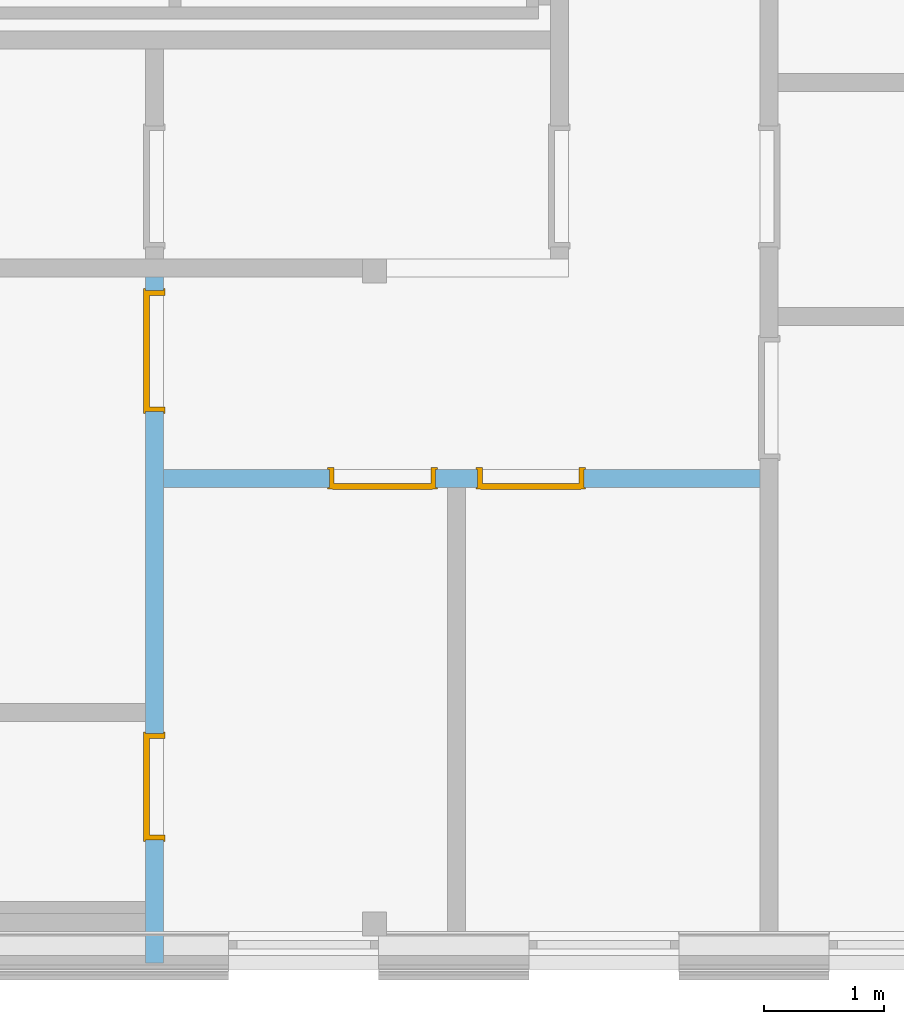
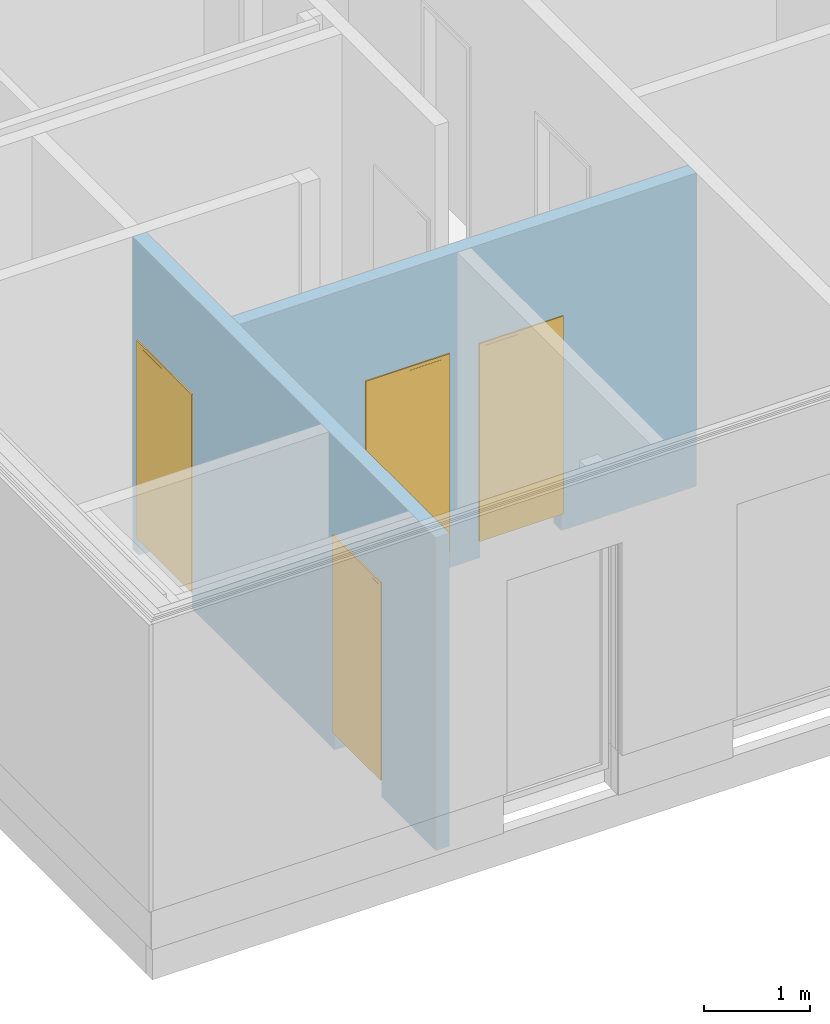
# One storey, part 7 of 23: 4 doors, 4 openings, plus 2 elements that do not belong to this part.
"""IFC4 building model written with IfcOpenShell, lengths in metres."""

from ifc_helpers import new_model, entity, si_unit, converted_unit, derived_unit, frame, frame_2d, origin, origin_with_axes, place, context, subcontext, project, spatial, polyline, rectangle, outline, extrude, faceted_brep, source, transform, mapped, material, type_object, element, fill, save


model = new_model("IFC4")

# Units and contexts
model_context = context("Model", 3, precision=1e-05, world=origin())
body_context = subcontext(model_context, "Body", "Model", "MODEL_VIEW")
ifc_project = project(units=[si_unit("LENGTHUNIT", "METRE"), si_unit("AREAUNIT", "SQUARE_METRE"), si_unit("VOLUMEUNIT", "CUBIC_METRE"), si_unit("MASSUNIT", "GRAM", prefix="KILO"), converted_unit("PLANEANGLEUNIT", "DEGREE", entity("IfcPlaneAngleMeasure", 0.0174532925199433), si_unit("PLANEANGLEUNIT", "RADIAN"), dimensions=[0, 0, 0, 0, 0, 0, 0]), derived_unit("THERMALTRANSMITTANCEUNIT", [(si_unit("POWERUNIT", "WATT"), 1), (si_unit("THERMODYNAMICTEMPERATUREUNIT", "KELVIN"), -1), (si_unit("LENGTHUNIT", "METRE"), -2)]), derived_unit("VOLUMETRICFLOWRATEUNIT", [(si_unit("LENGTHUNIT", "METRE"), 3), (converted_unit("TIMEUNIT", "hour", entity("IfcTimeMeasure", 3600.0), si_unit("TIMEUNIT", "SECOND"), dimensions=[0, 0, 1, 0, 0, 0, 0]), -1), (si_unit("LENGTHUNIT", "METRE"), -1)])], contexts=[model_context])

# Site, building, storey
site_placement = place(None, origin())
site = spatial("IfcSite", under=ifc_project, at=site_placement, Name="Psychiatrie Neubau Wunstorf", CompositionType="ELEMENT")
building_placement = place(site_placement, origin())
building = spatial("IfcBuilding", under=site, at=building_placement, Name="Neubau H1 Sozialzentrum", CompositionType="ELEMENT")
storey_placement = place(building_placement, frame((0.0, 0.0, 0.7)))
storey = spatial("IfcBuildingStorey", under=building, at=storey_placement, Name="H1 Ebene 0", CompositionType="ELEMENT", Elevation=0.7)

# Wall, openings, doors
ifc_material_1 = material(Name="WI-IW")
wall_1_placement = place(storey_placement, frame((-12.9120330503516, 4.00232136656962, -0.2), z_axis=(0.0, 0.0, 1.0), x_axis=(1.81740623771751e-09, 1.0, 0.0)))
wall_1 = element("IfcWall", 1, at=wall_1_placement, inside=storey, material=ifc_material_1, context=body_context, shape_type="SweptSolid", body=[
    extrude(rectangle(XDim=5.71006578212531, YDim=0.15, at=frame_2d((2.85503289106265, 0.075), x_axis=(1.0, 0.0))), origin_with_axes(), (0.0, 0.0, 1.0), 3.6),
])
opening_1_placement = place(wall_1_placement, frame((1.90999998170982, 0.149999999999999, 0.0), z_axis=(0.0, -1.0, 0.0), x_axis=(0.0, 0.0, 1.0)))
opening_1 = element("IfcOpeningElement", 2, at=opening_1_placement, cuts=wall_1, Name="Türöffnung", ObjectType="Opening", context=body_context, shape_type="SweptSolid", body=[
    extrude(outline(polyline([(2.46, 0.885000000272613), (2.46, 0.0), (0.0, 0.0), (0.0, 0.885000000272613), (2.46, 0.885000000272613)])), origin_with_axes(), (0.0, 0.0, 1.0), 0.15),
])
opening_2_placement = place(wall_1_placement, frame((5.60003535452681, 0.150000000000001, 0.0), z_axis=(6.06329801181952e-15, -1.0, 0.0), x_axis=(0.0, 0.0, 1.0)))
opening_2 = element("IfcOpeningElement", 3, at=opening_2_placement, cuts=wall_1, Name="Türöffnung", ObjectType="Opening", context=body_context, shape_type="SweptSolid", body=[
    extrude(outline(polyline([(2.46, 1.01000000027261), (2.46, 0.0), (0.0, 0.0), (0.0, 1.01000000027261), (2.46, 1.01000000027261)])), origin_with_axes(), (0.0, 0.0, 1.0), 0.15),
])
ifc_material_2 = material(Name="TI-1F-UZ-ZK")
door_type_1 = type_object("IfcDoorType", Name="SMT", OperationType="SINGLE_SWING_RIGHT", ParameterTakesPrecedence=False, PredefinedType="DOOR")
shared_shape_1 = source(origin_with_axes(), body_context, "Body", "Brep", [
    faceted_brep([(0.885000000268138, -0.015, 2.46), (0.885000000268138, -0.015, 0.2), (0.845000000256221, -0.015, 0.2), (0.845000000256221, -0.015, 2.46), (0.885000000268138, 0.165, 0.2), (0.885000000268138, 0.165, 2.46), (0.84500000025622, 0.165, 2.46), (0.84500000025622, 0.165, 0.2)], [[[0, 1, 2, 3]], [[4, 5, 6, 7]], [[1, 0, 5, 4]], [[2, 1, 4, 7]], [[3, 2, 7, 6]], [[0, 3, 6, 5]]], orient=[[False], [False], [False], [False], [False], [False]]),
    faceted_brep([(0.885000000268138, -0.015, 2.475), (0.900000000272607, -0.015, 2.475), (0.900000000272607, -0.015, 0.2), (0.885000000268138, -0.015, 0.2), (0.885000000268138, 0.0, 0.2), (0.900000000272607, 0.0, 0.2), (0.900000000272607, 0.0, 2.475), (0.885000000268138, 0.0, 2.475)], [[[0, 1, 2, 3]], [[4, 5, 6, 7]], [[3, 4, 7, 0]], [[2, 5, 4, 3]], [[1, 6, 5, 2]], [[0, 7, 6, 1]]], orient=[[False], [False], [False], [False], [False], [False]]),
    faceted_brep([(0.885000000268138, 0.15, 2.475), (0.900000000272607, 0.15, 2.475), (0.900000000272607, 0.15, 0.2), (0.885000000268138, 0.15, 0.2), (0.885000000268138, 0.165, 0.2), (0.900000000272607, 0.165, 0.2), (0.900000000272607, 0.165, 2.475), (0.885000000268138, 0.165, 2.475)], [[[0, 1, 2, 3]], [[4, 5, 6, 7]], [[3, 4, 7, 0]], [[2, 5, 4, 3]], [[1, 6, 5, 2]], [[0, 7, 6, 1]]], orient=[[False], [False], [False], [False], [False], [False]]),
    faceted_brep([(0.0400000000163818, -0.015, 2.46), (0.0400000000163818, -0.015, 0.2), (0.0, -0.015, 0.2), (0.0, -0.015, 2.46), (0.0400000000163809, 0.165, 0.2), (0.0400000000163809, 0.165, 2.46), (0.0, 0.165, 2.46), (0.0, 0.165, 0.2)], [[[0, 1, 2, 3]], [[4, 5, 6, 7]], [[1, 0, 5, 4]], [[2, 1, 4, 7]], [[3, 2, 7, 6]], [[0, 3, 6, 5]]], orient=[[False], [False], [False], [False], [False], [False]]),
    faceted_brep([(0.0, -0.015, 2.475), (0.0, -0.015, 0.2), (-0.0150000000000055, -0.015, 0.2), (-0.0150000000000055, -0.015, 2.475), (0.0, 0.0, 0.2), (0.0, 0.0, 2.475), (-0.0150000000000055, 0.0, 2.475), (-0.0150000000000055, 0.0, 0.2)], [[[0, 1, 2, 3]], [[4, 5, 6, 7]], [[1, 0, 5, 4]], [[2, 1, 4, 7]], [[3, 2, 7, 6]], [[0, 3, 6, 5]]], orient=[[False], [False], [False], [False], [False], [False]]),
    faceted_brep([(0.0, 0.15, 2.475), (0.0, 0.15, 0.2), (-0.0150000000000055, 0.15, 0.2), (-0.0150000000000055, 0.15, 2.475), (0.0, 0.165, 0.2), (0.0, 0.165, 2.475), (-0.0150000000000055, 0.165, 2.475), (-0.0150000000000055, 0.165, 0.2)], [[[0, 1, 2, 3]], [[4, 5, 6, 7]], [[1, 0, 5, 4]], [[2, 1, 4, 7]], [[3, 2, 7, 6]], [[0, 3, 6, 5]]], orient=[[False], [False], [False], [False], [False], [False]]),
    faceted_brep([(0.845000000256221, -0.015, 2.46), (0.845000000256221, -0.015, 2.42), (0.0400000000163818, -0.015, 2.42), (0.0400000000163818, -0.015, 2.46), (0.84500000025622, 0.165, 2.42), (0.84500000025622, 0.165, 2.46), (0.0400000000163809, 0.165, 2.46), (0.0400000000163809, 0.165, 2.42)], [[[0, 1, 2, 3]], [[4, 5, 6, 7]], [[1, 0, 5, 4]], [[2, 1, 4, 7]], [[3, 2, 7, 6]], [[0, 3, 6, 5]]], orient=[[False], [False], [False], [False], [False], [False]]),
    faceted_brep([(0.885000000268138, -0.015, 2.475), (0.885000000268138, -0.015, 2.46), (0.0, -0.015, 2.46), (0.0, -0.015, 2.475), (0.885000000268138, 0.0, 2.46), (0.885000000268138, 0.0, 2.475), (0.0, 0.0, 2.475), (0.0, 0.0, 2.46)], [[[0, 1, 2, 3]], [[4, 5, 6, 7]], [[1, 0, 5, 4]], [[2, 1, 4, 7]], [[3, 2, 7, 6]], [[0, 3, 6, 5]]], orient=[[False], [False], [False], [False], [False], [False]]),
    faceted_brep([(0.885000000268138, 0.15, 2.475), (0.885000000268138, 0.15, 2.46), (0.0, 0.15, 2.46), (0.0, 0.15, 2.475), (0.885000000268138, 0.165, 2.46), (0.885000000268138, 0.165, 2.475), (0.0, 0.165, 2.475), (0.0, 0.165, 2.46)], [[[0, 1, 2, 3]], [[4, 5, 6, 7]], [[1, 0, 5, 4]], [[2, 1, 4, 7]], [[3, 2, 7, 6]], [[0, 3, 6, 5]]], orient=[[False], [False], [False], [False], [False], [False]]),
    faceted_brep([(0.86000000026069, 0.116, 2.435), (0.86000000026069, 0.116, 0.2), (0.0250000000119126, 0.116000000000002, 0.2), (0.0250000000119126, 0.116, 2.435), (0.86000000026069, 0.166, 0.2), (0.86000000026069, 0.166, 2.435), (0.0250000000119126, 0.166, 2.435), (0.0250000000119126, 0.166000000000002, 0.2)], [[[0, 1, 2, 3]], [[4, 5, 6, 7]], [[1, 0, 5, 4]], [[2, 1, 4, 7]], [[3, 2, 7, 6]], [[0, 3, 6, 5]]], orient=[[False], [False], [False], [False], [False], [False]]),
])
door_1_placement = place(opening_1_placement, frame((0.0, 0.885000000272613, 0.15), z_axis=(1.0, 0.0, 0.0), x_axis=(0.0, -1.0, 5.41719669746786e-16)))
door_1 = element("IfcDoor", 4, at=door_1_placement, inside=storey, type_object=door_type_1, material=ifc_material_2, Name="SMT", OverallHeight=2.46, OverallWidth=0.885, context=body_context, shape_type="MappedRepresentation", body=[
    mapped(shared_shape_1, transform((0.0, 0.0, 0.0), x_axis=(1.0, 0.0, 0.0), y_axis=(0.0, 1.0, 0.0), z_axis=(0.0, 0.0, 1.0), scale=1.0)),
])
fill(opening_1, door_1)
ifc_material_3 = material(Name="TI-1F-UZ-ZK")
door_type_2 = type_object("IfcDoorType", Name="SMT", OperationType="SINGLE_SWING_RIGHT", ParameterTakesPrecedence=False, PredefinedType="DOOR")
shared_shape_2 = source(origin_with_axes(), body_context, "Body", "Brep", [
    faceted_brep([(1.01000000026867, -0.015, 2.46), (1.01000000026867, -0.015, 0.2), (0.970000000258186, -0.015, 0.2), (0.970000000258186, -0.015, 2.46), (1.01000000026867, 0.165, 0.2), (1.01000000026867, 0.165, 2.46), (0.970000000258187, 0.165, 2.46), (0.970000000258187, 0.165, 0.2)], [[[0, 1, 2, 3]], [[4, 5, 6, 7]], [[1, 0, 5, 4]], [[2, 1, 4, 7]], [[3, 2, 7, 6]], [[0, 3, 6, 5]]], orient=[[False], [False], [False], [False], [False], [False]]),
    faceted_brep([(1.01000000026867, -0.015, 2.475), (1.0250000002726, -0.015, 2.475), (1.0250000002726, -0.015, 0.2), (1.01000000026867, -0.015, 0.2), (1.01000000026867, 0.0, 0.2), (1.0250000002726, 0.0, 0.2), (1.0250000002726, 0.0, 2.475), (1.01000000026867, 0.0, 2.475)], [[[0, 1, 2, 3]], [[4, 5, 6, 7]], [[3, 4, 7, 0]], [[2, 5, 4, 3]], [[1, 6, 5, 2]], [[0, 7, 6, 1]]], orient=[[False], [False], [False], [False], [False], [False]]),
    faceted_brep([(1.01000000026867, 0.15, 2.475), (1.0250000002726, 0.15, 2.475), (1.0250000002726, 0.15, 0.2), (1.01000000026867, 0.15, 0.2), (1.01000000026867, 0.165, 0.2), (1.0250000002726, 0.165, 0.2), (1.0250000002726, 0.165, 2.475), (1.01000000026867, 0.165, 2.475)], [[[0, 1, 2, 3]], [[4, 5, 6, 7]], [[3, 4, 7, 0]], [[2, 5, 4, 3]], [[1, 6, 5, 2]], [[0, 7, 6, 1]]], orient=[[False], [False], [False], [False], [False], [False]]),
    faceted_brep([(0.0400000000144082, -0.015, 2.46), (0.0400000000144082, -0.015, 0.2), (0.0, -0.015, 0.2), (0.0, -0.015, 2.46), (0.0400000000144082, 0.165, 0.2), (0.0400000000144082, 0.165, 2.46), (0.0, 0.165, 2.46), (0.0, 0.165, 0.2)], [[[0, 1, 2, 3]], [[4, 5, 6, 7]], [[1, 0, 5, 4]], [[2, 1, 4, 7]], [[3, 2, 7, 6]], [[0, 3, 6, 5]]], orient=[[False], [False], [False], [False], [False], [False]]),
    faceted_brep([(0.0, -0.015, 2.475), (0.0, -0.015, 0.2), (-0.0150000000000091, -0.015, 0.2), (-0.0150000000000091, -0.015, 2.475), (0.0, 0.0, 0.2), (0.0, 0.0, 2.475), (-0.0150000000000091, 0.0, 2.475), (-0.0150000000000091, 0.0, 0.2)], [[[0, 1, 2, 3]], [[4, 5, 6, 7]], [[1, 0, 5, 4]], [[2, 1, 4, 7]], [[3, 2, 7, 6]], [[0, 3, 6, 5]]], orient=[[False], [False], [False], [False], [False], [False]]),
    faceted_brep([(0.0, 0.15, 2.475), (0.0, 0.15, 0.2), (-0.0150000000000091, 0.15, 0.2), (-0.0150000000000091, 0.15, 2.475), (0.0, 0.165, 0.2), (0.0, 0.165, 2.475), (-0.0150000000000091, 0.165, 2.475), (-0.0150000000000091, 0.165, 0.2)], [[[0, 1, 2, 3]], [[4, 5, 6, 7]], [[1, 0, 5, 4]], [[2, 1, 4, 7]], [[3, 2, 7, 6]], [[0, 3, 6, 5]]], orient=[[False], [False], [False], [False], [False], [False]]),
    faceted_brep([(0.970000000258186, -0.015, 2.46), (0.970000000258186, -0.015, 2.42), (0.0400000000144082, -0.015, 2.42), (0.0400000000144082, -0.015, 2.46), (0.970000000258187, 0.165, 2.42), (0.970000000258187, 0.165, 2.46), (0.0400000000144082, 0.165, 2.46), (0.0400000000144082, 0.165, 2.42)], [[[0, 1, 2, 3]], [[4, 5, 6, 7]], [[1, 0, 5, 4]], [[2, 1, 4, 7]], [[3, 2, 7, 6]], [[0, 3, 6, 5]]], orient=[[False], [False], [False], [False], [False], [False]]),
    faceted_brep([(1.01000000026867, -0.015, 2.475), (1.01000000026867, -0.015, 2.46), (0.0, -0.015, 2.46), (0.0, -0.015, 2.475), (1.01000000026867, 0.0, 2.46), (1.01000000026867, 0.0, 2.475), (0.0, 0.0, 2.475), (0.0, 0.0, 2.46)], [[[0, 1, 2, 3]], [[4, 5, 6, 7]], [[1, 0, 5, 4]], [[2, 1, 4, 7]], [[3, 2, 7, 6]], [[0, 3, 6, 5]]], orient=[[False], [False], [False], [False], [False], [False]]),
    faceted_brep([(1.01000000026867, 0.15, 2.475), (1.01000000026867, 0.15, 2.46), (0.0, 0.15, 2.46), (0.0, 0.15, 2.475), (1.01000000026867, 0.165, 2.46), (1.01000000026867, 0.165, 2.475), (0.0, 0.165, 2.475), (0.0, 0.165, 2.46)], [[[0, 1, 2, 3]], [[4, 5, 6, 7]], [[1, 0, 5, 4]], [[2, 1, 4, 7]], [[3, 2, 7, 6]], [[0, 3, 6, 5]]], orient=[[False], [False], [False], [False], [False], [False]]),
    faceted_brep([(0.985000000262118, 0.116, 2.435), (0.985000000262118, 0.116, 0.2), (0.0250000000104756, 0.116, 0.2), (0.0250000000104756, 0.116, 2.435), (0.985000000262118, 0.166, 0.2), (0.985000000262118, 0.166, 2.435), (0.0250000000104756, 0.166, 2.435), (0.0250000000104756, 0.166, 0.2)], [[[0, 1, 2, 3]], [[4, 5, 6, 7]], [[1, 0, 5, 4]], [[2, 1, 4, 7]], [[3, 2, 7, 6]], [[0, 3, 6, 5]]], orient=[[False], [False], [False], [False], [False], [False]]),
])
door_2_placement = place(opening_2_placement, frame((0.0, 1.01000000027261, 0.149999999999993), z_axis=(1.0, 0.0, 0.0), x_axis=(0.0, -1.0, 6.16756085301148e-15)))
door_2 = element("IfcDoor", 5, at=door_2_placement, inside=storey, type_object=door_type_2, material=ifc_material_3, Name="SMT", OverallHeight=2.46, OverallWidth=1.01, context=body_context, shape_type="MappedRepresentation", body=[
    mapped(shared_shape_2, transform((0.0, 0.0, 0.0), x_axis=(1.0, 0.0, 0.0), y_axis=(0.0, 1.0, 0.0), z_axis=(0.0, 0.0, 1.0), scale=1.0)),
])
fill(opening_2, door_2)

ifc_material_4 = material(Name="WI-IW")
wall_2_placement = place(storey_placement, frame((-12.9120330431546, 7.96232451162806, -0.2), z_axis=(0.0, 0.0, 1.0), x_axis=(0.999999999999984, 1.78464375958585e-07, 0.0)))
wall_2 = element("IfcWall", 6, at=wall_2_placement, inside=storey, material=ifc_material_4, context=body_context, shape_type="SweptSolid", body=[
    extrude(rectangle(XDim=4.97050665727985, YDim=0.150000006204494, at=frame_2d((2.48525332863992, 0.0750000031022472), x_axis=(1.0, 0.0))), origin_with_axes(), (0.0, 0.0, 1.0), 3.6),
])
opening_3_placement = place(wall_2_placement, frame((2.6175322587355, 0.0, 0.0), z_axis=(2.72411841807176e-10, 1.0, 0.0), x_axis=(0.0, 0.0, 1.0)))
opening_3 = element("IfcOpeningElement", 7, at=opening_3_placement, cuts=wall_2, Name="Türöffnung", ObjectType="Opening", context=body_context, shape_type="SweptSolid", body=[
    extrude(outline(polyline([(2.46, 0.884999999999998), (2.46, 0.0), (0.0, 0.0), (0.0, 0.884999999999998), (2.46, 0.884999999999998)])), origin_with_axes(), (0.0, 0.0, 1.0), 0.150000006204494),
])
opening_4_placement = place(wall_2_placement, frame((1.38253225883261, 0.0, 0.0), z_axis=(2.72408810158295e-10, 1.0, 0.0), x_axis=(0.0, 0.0, 1.0)))
opening_4 = element("IfcOpeningElement", 8, at=opening_4_placement, cuts=wall_2, Name="Türöffnung", ObjectType="Opening", context=body_context, shape_type="SweptSolid", body=[
    extrude(outline(polyline([(2.46, 0.885), (2.46, 0.0), (0.0, 0.0), (0.0, 0.885), (2.46, 0.885)])), origin_with_axes(), (0.0, 0.0, 1.0), 0.150000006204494),
])
ifc_material_5 = material(Name="TI-1F-UZ-ZK")
door_type_3 = type_object("IfcDoorType", Name="SMT", OperationType="SINGLE_SWING_RIGHT", ParameterTakesPrecedence=False, PredefinedType="DOOR")
shared_shape_3 = source(origin_with_axes(), body_context, "Body", "Brep", [
    faceted_brep([(0.884999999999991, -0.0149999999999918, 2.46), (0.884999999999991, -0.0149999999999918, 0.2), (0.844999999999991, -0.0149999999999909, 0.2), (0.844999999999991, -0.0149999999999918, 2.46), (0.884999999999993, 0.165000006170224, 0.2), (0.884999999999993, 0.165000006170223, 2.46), (0.844999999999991, 0.165000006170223, 2.46), (0.844999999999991, 0.165000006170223, 0.2)], [[[0, 1, 2, 3]], [[4, 5, 6, 7]], [[1, 0, 5, 4]], [[2, 1, 4, 7]], [[3, 2, 7, 6]], [[0, 3, 6, 5]]], orient=[[False], [False], [False], [False], [False], [False]]),
    faceted_brep([(0.884999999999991, -0.0149999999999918, 2.475), (0.899999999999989, -0.0149999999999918, 2.475), (0.899999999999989, -0.0149999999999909, 0.2), (0.884999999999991, -0.0149999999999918, 0.2), (0.884999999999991, 0.0, 0.2), (0.899999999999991, 0.0, 0.2), (0.899999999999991, 0.0, 2.475), (0.884999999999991, 0.0, 2.475)], [[[0, 1, 2, 3]], [[4, 5, 6, 7]], [[3, 4, 7, 0]], [[2, 5, 4, 3]], [[1, 6, 5, 2]], [[0, 7, 6, 1]]], orient=[[False], [False], [False], [False], [False], [False]]),
    faceted_brep([(0.884999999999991, 0.150000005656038, 2.475), (0.899999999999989, 0.150000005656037, 2.475), (0.899999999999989, 0.150000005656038, 0.2), (0.884999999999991, 0.150000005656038, 0.2), (0.884999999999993, 0.165000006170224, 0.2), (0.899999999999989, 0.165000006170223, 0.2), (0.899999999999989, 0.165000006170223, 2.475), (0.884999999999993, 0.165000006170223, 2.475)], [[[0, 1, 2, 3]], [[4, 5, 6, 7]], [[3, 4, 7, 0]], [[2, 5, 4, 3]], [[1, 6, 5, 2]], [[0, 7, 6, 1]]], orient=[[False], [False], [False], [False], [False], [False]]),
    faceted_brep([(0.0399999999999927, -0.0149999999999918, 2.46), (0.0399999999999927, -0.0149999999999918, 0.2), (0.0, -0.0149999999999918, 0.2), (0.0, -0.0149999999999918, 2.46), (0.0399999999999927, 0.165000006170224, 0.2), (0.0399999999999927, 0.165000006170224, 2.46), (0.0, 0.165000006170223, 2.46), (0.0, 0.165000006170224, 0.2)], [[[0, 1, 2, 3]], [[4, 5, 6, 7]], [[1, 0, 5, 4]], [[2, 1, 4, 7]], [[3, 2, 7, 6]], [[0, 3, 6, 5]]], orient=[[False], [False], [False], [False], [False], [False]]),
    faceted_brep([(0.0, -0.0149999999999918, 2.475), (0.0, -0.0149999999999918, 0.2), (-0.0150000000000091, -0.0149999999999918, 0.2), (-0.0150000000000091, -0.0149999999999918, 2.475), (0.0, 0.0, 0.2), (0.0, 0.0, 2.475), (-0.0150000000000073, 0.0, 2.475), (-0.0150000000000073, 0.0, 0.2)], [[[0, 1, 2, 3]], [[4, 5, 6, 7]], [[1, 0, 5, 4]], [[2, 1, 4, 7]], [[3, 2, 7, 6]], [[0, 3, 6, 5]]], orient=[[False], [False], [False], [False], [False], [False]]),
    faceted_brep([(0.0, 0.150000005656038, 2.475), (0.0, 0.150000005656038, 0.2), (-0.0150000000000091, 0.150000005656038, 0.2), (-0.0150000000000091, 0.150000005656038, 2.475), (0.0, 0.165000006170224, 0.2), (0.0, 0.165000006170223, 2.475), (-0.0150000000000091, 0.165000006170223, 2.475), (-0.0150000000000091, 0.165000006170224, 0.2)], [[[0, 1, 2, 3]], [[4, 5, 6, 7]], [[1, 0, 5, 4]], [[2, 1, 4, 7]], [[3, 2, 7, 6]], [[0, 3, 6, 5]]], orient=[[False], [False], [False], [False], [False], [False]]),
    faceted_brep([(0.844999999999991, -0.0149999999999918, 2.46), (0.844999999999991, -0.0149999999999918, 2.42), (0.0399999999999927, -0.0149999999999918, 2.42), (0.0399999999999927, -0.0149999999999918, 2.46), (0.844999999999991, 0.165000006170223, 2.42), (0.844999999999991, 0.165000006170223, 2.46), (0.0399999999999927, 0.165000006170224, 2.46), (0.0399999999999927, 0.165000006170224, 2.42)], [[[0, 1, 2, 3]], [[4, 5, 6, 7]], [[1, 0, 5, 4]], [[2, 1, 4, 7]], [[3, 2, 7, 6]], [[0, 3, 6, 5]]], orient=[[False], [False], [False], [False], [False], [False]]),
    faceted_brep([(0.884999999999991, -0.0149999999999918, 2.475), (0.884999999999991, -0.0149999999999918, 2.46), (0.0, -0.0149999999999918, 2.46), (0.0, -0.0149999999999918, 2.475), (0.884999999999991, 0.0, 2.46), (0.884999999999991, 0.0, 2.475), (0.0, 0.0, 2.475), (0.0, 0.0, 2.46)], [[[0, 1, 2, 3]], [[4, 5, 6, 7]], [[1, 0, 5, 4]], [[2, 1, 4, 7]], [[3, 2, 7, 6]], [[0, 3, 6, 5]]], orient=[[False], [False], [False], [False], [False], [False]]),
    faceted_brep([(0.884999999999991, 0.150000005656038, 2.475), (0.884999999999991, 0.150000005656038, 2.46), (0.0, 0.150000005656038, 2.46), (0.0, 0.150000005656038, 2.475), (0.884999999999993, 0.165000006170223, 2.46), (0.884999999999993, 0.165000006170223, 2.475), (0.0, 0.165000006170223, 2.475), (0.0, 0.165000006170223, 2.46)], [[[0, 1, 2, 3]], [[4, 5, 6, 7]], [[1, 0, 5, 4]], [[2, 1, 4, 7]], [[3, 2, 7, 6]], [[0, 3, 6, 5]]], orient=[[False], [False], [False], [False], [False], [False]]),
    faceted_brep([(0.859999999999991, 0.116000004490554, 2.435), (0.859999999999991, 0.116000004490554, 0.2), (0.0249999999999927, 0.116000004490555, 0.2), (0.0249999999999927, 0.116000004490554, 2.435), (0.859999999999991, 0.166000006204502, 0.2), (0.859999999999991, 0.166000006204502, 2.435), (0.0249999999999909, 0.166000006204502, 2.435), (0.0249999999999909, 0.166000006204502, 0.2)], [[[0, 1, 2, 3]], [[4, 5, 6, 7]], [[1, 0, 5, 4]], [[2, 1, 4, 7]], [[3, 2, 7, 6]], [[0, 3, 6, 5]]], orient=[[False], [False], [False], [False], [False], [False]]),
])
door_3_placement = place(opening_3_placement, frame((0.0, 0.884999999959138, 0.150000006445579), z_axis=(1.0, 0.0, 0.0), x_axis=(0.0, -1.0, -2.72411829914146e-10)))
door_3 = element("IfcDoor", 9, at=door_3_placement, inside=storey, type_object=door_type_3, material=ifc_material_5, Name="SMT", OverallHeight=2.46, OverallWidth=0.885, context=body_context, shape_type="MappedRepresentation", body=[
    mapped(shared_shape_3, transform((0.0, 0.0, 0.0), x_axis=(1.0, 0.0, 0.0), y_axis=(0.0, 1.0, 0.0), z_axis=(0.0, 0.0, 1.0), scale=1.0)),
])
fill(opening_3, door_3)
ifc_material_6 = material(Name="TI-1F-UZ-ZK")
door_type_4 = type_object("IfcDoorType", Name="SMT", OperationType="SINGLE_SWING_RIGHT", ParameterTakesPrecedence=False, PredefinedType="DOOR")
shared_shape_4 = source(origin_with_axes(), body_context, "Body", "Brep", [
    faceted_brep([(0.0, -0.0150000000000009, 2.46), (0.0399999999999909, -0.0150000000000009, 2.46), (0.0399999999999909, -0.0150000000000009, 0.2), (0.0, -0.015, 0.2), (0.0, 0.165000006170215, 0.2), (0.0399999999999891, 0.165000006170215, 0.2), (0.0399999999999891, 0.165000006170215, 2.46), (0.0, 0.165000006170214, 2.46)], [[[0, 1, 2, 3]], [[4, 5, 6, 7]], [[3, 4, 7, 0]], [[2, 5, 4, 3]], [[1, 6, 5, 2]], [[0, 7, 6, 1]]], orient=[[False], [False], [False], [False], [False], [False]]),
    faceted_brep([(0.0, -0.0150000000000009, 2.475), (0.0, -0.015, 0.2), (-0.0150000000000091, -0.015, 0.2), (-0.0150000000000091, -0.015, 2.475), (0.0, 0.0, 0.2), (0.0, 0.0, 2.475), (-0.0150000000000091, 0.0, 2.475), (-0.0150000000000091, 0.0, 0.2)], [[[0, 1, 2, 3]], [[4, 5, 6, 7]], [[1, 0, 5, 4]], [[2, 1, 4, 7]], [[3, 2, 7, 6]], [[0, 3, 6, 5]]], orient=[[False], [False], [False], [False], [False], [False]]),
    faceted_brep([(0.0, 0.15000000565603, 2.475), (0.0, 0.15000000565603, 0.2), (-0.0150000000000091, 0.150000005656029, 0.2), (-0.0150000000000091, 0.150000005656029, 2.475), (0.0, 0.165000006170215, 0.2), (0.0, 0.165000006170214, 2.475), (-0.0150000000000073, 0.165000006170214, 2.475), (-0.0150000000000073, 0.165000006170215, 0.2)], [[[0, 1, 2, 3]], [[4, 5, 6, 7]], [[1, 0, 5, 4]], [[2, 1, 4, 7]], [[3, 2, 7, 6]], [[0, 3, 6, 5]]], orient=[[False], [False], [False], [False], [False], [False]]),
    faceted_brep([(0.844999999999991, -0.0150000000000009, 2.46), (0.884999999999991, -0.0150000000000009, 2.46), (0.884999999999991, -0.015, 0.2), (0.844999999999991, -0.015, 0.2), (0.844999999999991, 0.165000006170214, 0.2), (0.884999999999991, 0.165000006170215, 0.2), (0.884999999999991, 0.165000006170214, 2.46), (0.844999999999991, 0.165000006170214, 2.46)], [[[0, 1, 2, 3]], [[4, 5, 6, 7]], [[3, 4, 7, 0]], [[2, 5, 4, 3]], [[1, 6, 5, 2]], [[0, 7, 6, 1]]], orient=[[False], [False], [False], [False], [False], [False]]),
    faceted_brep([(0.884999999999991, -0.0150000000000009, 2.475), (0.899999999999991, -0.0150000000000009, 2.475), (0.899999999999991, -0.015, 0.2), (0.884999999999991, -0.015, 0.2), (0.884999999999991, 0.0, 0.2), (0.899999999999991, 0.0, 0.2), (0.899999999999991, 0.0, 2.475), (0.884999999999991, 0.0, 2.475)], [[[0, 1, 2, 3]], [[4, 5, 6, 7]], [[3, 4, 7, 0]], [[2, 5, 4, 3]], [[1, 6, 5, 2]], [[0, 7, 6, 1]]], orient=[[False], [False], [False], [False], [False], [False]]),
    faceted_brep([(0.884999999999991, 0.15000000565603, 2.475), (0.899999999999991, 0.150000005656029, 2.475), (0.899999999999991, 0.15000000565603, 0.2), (0.884999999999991, 0.15000000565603, 0.2), (0.884999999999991, 0.165000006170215, 0.2), (0.899999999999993, 0.165000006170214, 0.2), (0.899999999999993, 0.165000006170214, 2.475), (0.884999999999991, 0.165000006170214, 2.475)], [[[0, 1, 2, 3]], [[4, 5, 6, 7]], [[3, 4, 7, 0]], [[2, 5, 4, 3]], [[1, 6, 5, 2]], [[0, 7, 6, 1]]], orient=[[False], [False], [False], [False], [False], [False]]),
    faceted_brep([(0.0399999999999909, -0.0150000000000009, 2.46), (0.844999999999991, -0.0150000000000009, 2.46), (0.844999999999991, -0.0150000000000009, 2.42), (0.0399999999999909, -0.0150000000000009, 2.42), (0.0399999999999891, 0.165000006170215, 2.42), (0.844999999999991, 0.165000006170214, 2.42), (0.844999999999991, 0.165000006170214, 2.46), (0.0399999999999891, 0.165000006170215, 2.46)], [[[0, 1, 2, 3]], [[4, 5, 6, 7]], [[3, 4, 7, 0]], [[2, 5, 4, 3]], [[1, 6, 5, 2]], [[0, 7, 6, 1]]], orient=[[False], [False], [False], [False], [False], [False]]),
    faceted_brep([(0.0, -0.0150000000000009, 2.475), (0.884999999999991, -0.0150000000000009, 2.475), (0.884999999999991, -0.0150000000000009, 2.46), (0.0, -0.0150000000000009, 2.46), (0.0, 0.0, 2.46), (0.884999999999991, 0.0, 2.46), (0.884999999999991, 0.0, 2.475), (0.0, 0.0, 2.475)], [[[0, 1, 2, 3]], [[4, 5, 6, 7]], [[3, 4, 7, 0]], [[2, 5, 4, 3]], [[1, 6, 5, 2]], [[0, 7, 6, 1]]], orient=[[False], [False], [False], [False], [False], [False]]),
    faceted_brep([(0.0, 0.15000000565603, 2.475), (0.884999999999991, 0.15000000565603, 2.475), (0.884999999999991, 0.15000000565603, 2.46), (0.0, 0.15000000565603, 2.46), (0.0, 0.165000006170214, 2.46), (0.884999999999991, 0.165000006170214, 2.46), (0.884999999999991, 0.165000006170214, 2.475), (0.0, 0.165000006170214, 2.475)], [[[0, 1, 2, 3]], [[4, 5, 6, 7]], [[3, 4, 7, 0]], [[2, 5, 4, 3]], [[1, 6, 5, 2]], [[0, 7, 6, 1]]], orient=[[False], [False], [False], [False], [False], [False]]),
    faceted_brep([(0.0249999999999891, 0.116000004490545, 2.435), (0.859999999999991, 0.116000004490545, 2.435), (0.859999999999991, 0.116000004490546, 0.2), (0.0249999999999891, 0.116000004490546, 0.2), (0.0249999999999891, 0.166000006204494, 0.2), (0.859999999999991, 0.166000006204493, 0.2), (0.859999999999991, 0.166000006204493, 2.435), (0.0249999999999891, 0.166000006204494, 2.435)], [[[0, 1, 2, 3]], [[4, 5, 6, 7]], [[3, 4, 7, 0]], [[2, 5, 4, 3]], [[1, 6, 5, 2]], [[0, 7, 6, 1]]], orient=[[False], [False], [False], [False], [False], [False]]),
])
door_4_placement = place(opening_4_placement, frame((0.0, 0.884999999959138, 0.150000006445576), z_axis=(1.0, 0.0, 0.0), x_axis=(0.0, -1.0, -2.72408798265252e-10)))
door_4 = element("IfcDoor", 10, at=door_4_placement, inside=storey, type_object=door_type_4, material=ifc_material_6, Name="SMT", OverallHeight=2.46, OverallWidth=0.885, context=body_context, shape_type="MappedRepresentation", body=[
    mapped(shared_shape_4, transform((0.0, 0.0, 0.0), x_axis=(1.0, 0.0, 0.0), y_axis=(0.0, 1.0, 0.0), z_axis=(0.0, 0.0, 1.0), scale=1.0)),
])
fill(opening_4, door_4)

save(model, "model.ifc")
